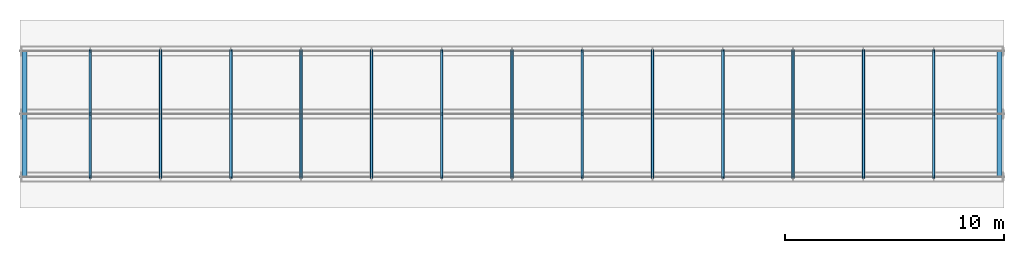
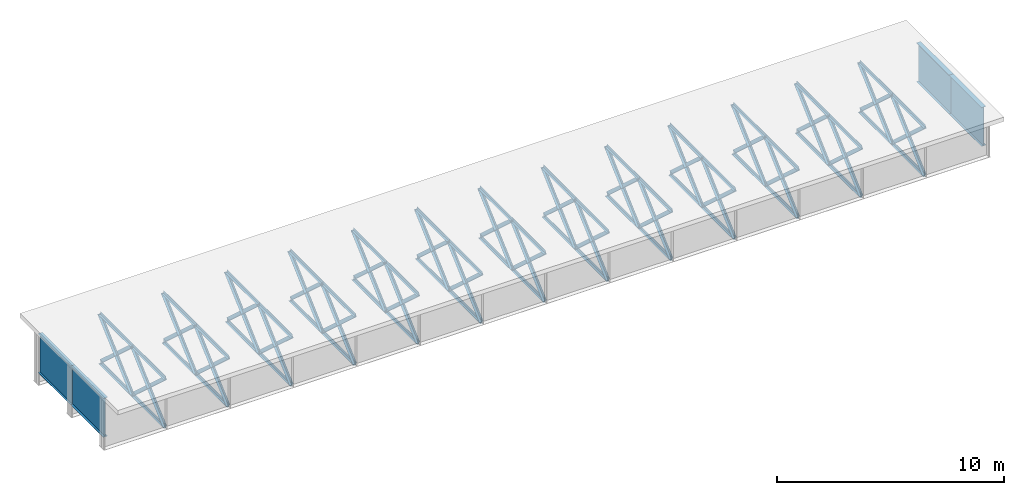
# One storey, part 1 of 12: 108 members.
"""IFC4 building model written with IfcOpenShell, lengths in metres."""

from ifc_helpers import new_model, si_unit, frame, origin, origin_with_axes, origin_2d_with_axis, place, context, subcontext, project, spatial, i_section, l_section, extrude, element, save


model = new_model("IFC4")

# Units and contexts
model_context = context("Model", 3, precision=1e-05, world=origin())
body_context = subcontext(model_context, "Body", "Model", "MODEL_VIEW")
ifc_project = project(units=[si_unit("LENGTHUNIT", "METRE"), si_unit("AREAUNIT", "SQUARE_METRE"), si_unit("VOLUMEUNIT", "CUBIC_METRE"), si_unit("PLANEANGLEUNIT", "RADIAN")], contexts=[model_context])

# Site, building, storey
site_placement = place(None, origin_with_axes())
site = spatial("IfcSite", under=ifc_project, at=site_placement, Name="Default Site")
building_placement = place(site_placement, origin_with_axes())
building = spatial("IfcBuilding", under=site, at=building_placement, Name="Bridge Structure")
storey_placement = place(building_placement, origin_with_axes())
storey = spatial("IfcBuildingStorey", under=building, at=storey_placement, Name="Superstructure")

# Members
for number, where, z_axis, x_axis, name in (
    (1, (0.2, -2.875, 0.261), (0.0, 1.0, 0.0), (-1.0, 0.0, 0.0), "End Diaphragm"),
    (2, (0.2, 0.0, 0.261), (0.0, 1.0, 0.0), (-1.0, 0.0, 0.0), "End Diaphragm"),
):
    element("IfcMember", number, at=place(storey_placement, frame(where, z_axis=z_axis, x_axis=x_axis)), inside=storey, Name=name, context=body_context, shape_type="SweptSolid", body=[
        extrude(i_section(OverallWidth=0.225, OverallDepth=2.088, WebThickness=0.022, FlangeThickness=0.012, at=origin_2d_with_axis()), origin_with_axes(), (0.0, 0.0, 1.0), 2.875),
    ])
for number, where, z_axis, x_axis, name in (
    (3, (3.2142857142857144, -2.875, 1.305), (0.0, 0.7404060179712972, -0.6721598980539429), (-1.0, 0.0, 0.0), "Diagonal Brace"),
    (4, (3.2142857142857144, -2.875, -1.305), (0.0, 0.7404060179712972, 0.6721598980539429), (-1.0, 0.0, 0.0), "Diagonal Brace"),
):
    element("IfcMember", number, at=place(storey_placement, frame(where, z_axis=z_axis, x_axis=x_axis)), inside=storey, Name=name, context=body_context, shape_type="SweptSolid", body=[
        extrude(l_section(Depth=0.195, Width=0.13, Thickness=0.008, at=origin_2d_with_axis()), origin_with_axes(), (0.0, 0.0, 1.0), 3.883004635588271),
    ])
for number, where, z_axis, x_axis, name in (
    (5, (3.2142857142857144, -2.875, -1.305), (0.0, 1.0, 0.0), (-1.0, 0.0, 0.0), "Bottom Chord"),
    (6, (3.2142857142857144, -2.875, 1.305), (0.0, 1.0, 0.0), (-1.0, 0.0, 0.0), "Top Chord"),
):
    element("IfcMember", number, at=place(storey_placement, frame(where, z_axis=z_axis, x_axis=x_axis)), inside=storey, Name=name, context=body_context, shape_type="SweptSolid", body=[
        extrude(l_section(Depth=0.169, Width=0.10400000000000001, Thickness=0.008, at=origin_2d_with_axis()), origin_with_axes(), (0.0, 0.0, 1.0), 2.875),
    ])
for number, where, z_axis, x_axis, name in (
    (7, (3.2142857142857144, 0.0, 1.305), (0.0, 0.7404060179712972, -0.6721598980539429), (-1.0, 0.0, 0.0), "Diagonal Brace"),
    (8, (3.2142857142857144, 0.0, -1.305), (0.0, 0.7404060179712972, 0.6721598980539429), (-1.0, 0.0, 0.0), "Diagonal Brace"),
):
    element("IfcMember", number, at=place(storey_placement, frame(where, z_axis=z_axis, x_axis=x_axis)), inside=storey, Name=name, context=body_context, shape_type="SweptSolid", body=[
        extrude(l_section(Depth=0.195, Width=0.13, Thickness=0.008, at=origin_2d_with_axis()), origin_with_axes(), (0.0, 0.0, 1.0), 3.883004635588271),
    ])
for number, where, z_axis, x_axis, name in (
    (9, (3.2142857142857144, 0.0, -1.305), (0.0, 1.0, 0.0), (-1.0, 0.0, 0.0), "Bottom Chord"),
    (10, (3.2142857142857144, 0.0, 1.305), (0.0, 1.0, 0.0), (-1.0, 0.0, 0.0), "Top Chord"),
):
    element("IfcMember", number, at=place(storey_placement, frame(where, z_axis=z_axis, x_axis=x_axis)), inside=storey, Name=name, context=body_context, shape_type="SweptSolid", body=[
        extrude(l_section(Depth=0.169, Width=0.10400000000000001, Thickness=0.008, at=origin_2d_with_axis()), origin_with_axes(), (0.0, 0.0, 1.0), 2.875),
    ])
for number, where, z_axis, x_axis, name in (
    (11, (6.428571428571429, -2.875, 1.305), (0.0, 0.7404060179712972, -0.6721598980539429), (-1.0, 0.0, 0.0), "Diagonal Brace"),
    (12, (6.428571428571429, -2.875, -1.305), (0.0, 0.7404060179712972, 0.6721598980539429), (-1.0, 0.0, 0.0), "Diagonal Brace"),
):
    element("IfcMember", number, at=place(storey_placement, frame(where, z_axis=z_axis, x_axis=x_axis)), inside=storey, Name=name, context=body_context, shape_type="SweptSolid", body=[
        extrude(l_section(Depth=0.195, Width=0.13, Thickness=0.008, at=origin_2d_with_axis()), origin_with_axes(), (0.0, 0.0, 1.0), 3.883004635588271),
    ])
for number, where, z_axis, x_axis, name in (
    (13, (6.428571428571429, -2.875, -1.305), (0.0, 1.0, 0.0), (-1.0, 0.0, 0.0), "Bottom Chord"),
    (14, (6.428571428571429, -2.875, 1.305), (0.0, 1.0, 0.0), (-1.0, 0.0, 0.0), "Top Chord"),
):
    element("IfcMember", number, at=place(storey_placement, frame(where, z_axis=z_axis, x_axis=x_axis)), inside=storey, Name=name, context=body_context, shape_type="SweptSolid", body=[
        extrude(l_section(Depth=0.169, Width=0.10400000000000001, Thickness=0.008, at=origin_2d_with_axis()), origin_with_axes(), (0.0, 0.0, 1.0), 2.875),
    ])
for number, where, z_axis, x_axis, name in (
    (15, (6.428571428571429, 0.0, 1.305), (0.0, 0.7404060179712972, -0.6721598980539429), (-1.0, 0.0, 0.0), "Diagonal Brace"),
    (16, (6.428571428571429, 0.0, -1.305), (0.0, 0.7404060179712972, 0.6721598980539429), (-1.0, 0.0, 0.0), "Diagonal Brace"),
):
    element("IfcMember", number, at=place(storey_placement, frame(where, z_axis=z_axis, x_axis=x_axis)), inside=storey, Name=name, context=body_context, shape_type="SweptSolid", body=[
        extrude(l_section(Depth=0.195, Width=0.13, Thickness=0.008, at=origin_2d_with_axis()), origin_with_axes(), (0.0, 0.0, 1.0), 3.883004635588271),
    ])
for number, where, z_axis, x_axis, name in (
    (17, (6.428571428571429, 0.0, -1.305), (0.0, 1.0, 0.0), (-1.0, 0.0, 0.0), "Bottom Chord"),
    (18, (6.428571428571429, 0.0, 1.305), (0.0, 1.0, 0.0), (-1.0, 0.0, 0.0), "Top Chord"),
):
    element("IfcMember", number, at=place(storey_placement, frame(where, z_axis=z_axis, x_axis=x_axis)), inside=storey, Name=name, context=body_context, shape_type="SweptSolid", body=[
        extrude(l_section(Depth=0.169, Width=0.10400000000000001, Thickness=0.008, at=origin_2d_with_axis()), origin_with_axes(), (0.0, 0.0, 1.0), 2.875),
    ])
for number, where, z_axis, x_axis, name in (
    (19, (9.642857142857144, -2.875, 1.305), (0.0, 0.7404060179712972, -0.6721598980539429), (-1.0, 0.0, 0.0), "Diagonal Brace"),
    (20, (9.642857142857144, -2.875, -1.305), (0.0, 0.7404060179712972, 0.6721598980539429), (-1.0, 0.0, 0.0), "Diagonal Brace"),
):
    element("IfcMember", number, at=place(storey_placement, frame(where, z_axis=z_axis, x_axis=x_axis)), inside=storey, Name=name, context=body_context, shape_type="SweptSolid", body=[
        extrude(l_section(Depth=0.195, Width=0.13, Thickness=0.008, at=origin_2d_with_axis()), origin_with_axes(), (0.0, 0.0, 1.0), 3.883004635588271),
    ])
for number, where, z_axis, x_axis, name in (
    (21, (9.642857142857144, -2.875, -1.305), (0.0, 1.0, 0.0), (-1.0, 0.0, 0.0), "Bottom Chord"),
    (22, (9.642857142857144, -2.875, 1.305), (0.0, 1.0, 0.0), (-1.0, 0.0, 0.0), "Top Chord"),
):
    element("IfcMember", number, at=place(storey_placement, frame(where, z_axis=z_axis, x_axis=x_axis)), inside=storey, Name=name, context=body_context, shape_type="SweptSolid", body=[
        extrude(l_section(Depth=0.169, Width=0.10400000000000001, Thickness=0.008, at=origin_2d_with_axis()), origin_with_axes(), (0.0, 0.0, 1.0), 2.875),
    ])
for number, where, z_axis, x_axis, name in (
    (23, (9.642857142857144, 0.0, 1.305), (0.0, 0.7404060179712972, -0.6721598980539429), (-1.0, 0.0, 0.0), "Diagonal Brace"),
    (24, (9.642857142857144, 0.0, -1.305), (0.0, 0.7404060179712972, 0.6721598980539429), (-1.0, 0.0, 0.0), "Diagonal Brace"),
):
    element("IfcMember", number, at=place(storey_placement, frame(where, z_axis=z_axis, x_axis=x_axis)), inside=storey, Name=name, context=body_context, shape_type="SweptSolid", body=[
        extrude(l_section(Depth=0.195, Width=0.13, Thickness=0.008, at=origin_2d_with_axis()), origin_with_axes(), (0.0, 0.0, 1.0), 3.883004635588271),
    ])
for number, where, z_axis, x_axis, name in (
    (25, (9.642857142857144, 0.0, -1.305), (0.0, 1.0, 0.0), (-1.0, 0.0, 0.0), "Bottom Chord"),
    (26, (9.642857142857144, 0.0, 1.305), (0.0, 1.0, 0.0), (-1.0, 0.0, 0.0), "Top Chord"),
):
    element("IfcMember", number, at=place(storey_placement, frame(where, z_axis=z_axis, x_axis=x_axis)), inside=storey, Name=name, context=body_context, shape_type="SweptSolid", body=[
        extrude(l_section(Depth=0.169, Width=0.10400000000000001, Thickness=0.008, at=origin_2d_with_axis()), origin_with_axes(), (0.0, 0.0, 1.0), 2.875),
    ])
for number, where, z_axis, x_axis, name in (
    (27, (12.857142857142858, -2.875, 1.305), (0.0, 0.7404060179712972, -0.6721598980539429), (-1.0, 0.0, 0.0), "Diagonal Brace"),
    (28, (12.857142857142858, -2.875, -1.305), (0.0, 0.7404060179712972, 0.6721598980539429), (-1.0, 0.0, 0.0), "Diagonal Brace"),
):
    element("IfcMember", number, at=place(storey_placement, frame(where, z_axis=z_axis, x_axis=x_axis)), inside=storey, Name=name, context=body_context, shape_type="SweptSolid", body=[
        extrude(l_section(Depth=0.195, Width=0.13, Thickness=0.008, at=origin_2d_with_axis()), origin_with_axes(), (0.0, 0.0, 1.0), 3.883004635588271),
    ])
for number, where, z_axis, x_axis, name in (
    (29, (12.857142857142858, -2.875, -1.305), (0.0, 1.0, 0.0), (-1.0, 0.0, 0.0), "Bottom Chord"),
    (30, (12.857142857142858, -2.875, 1.305), (0.0, 1.0, 0.0), (-1.0, 0.0, 0.0), "Top Chord"),
):
    element("IfcMember", number, at=place(storey_placement, frame(where, z_axis=z_axis, x_axis=x_axis)), inside=storey, Name=name, context=body_context, shape_type="SweptSolid", body=[
        extrude(l_section(Depth=0.169, Width=0.10400000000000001, Thickness=0.008, at=origin_2d_with_axis()), origin_with_axes(), (0.0, 0.0, 1.0), 2.875),
    ])
for number, where, z_axis, x_axis, name in (
    (31, (12.857142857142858, 0.0, 1.305), (0.0, 0.7404060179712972, -0.6721598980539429), (-1.0, 0.0, 0.0), "Diagonal Brace"),
    (32, (12.857142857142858, 0.0, -1.305), (0.0, 0.7404060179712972, 0.6721598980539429), (-1.0, 0.0, 0.0), "Diagonal Brace"),
):
    element("IfcMember", number, at=place(storey_placement, frame(where, z_axis=z_axis, x_axis=x_axis)), inside=storey, Name=name, context=body_context, shape_type="SweptSolid", body=[
        extrude(l_section(Depth=0.195, Width=0.13, Thickness=0.008, at=origin_2d_with_axis()), origin_with_axes(), (0.0, 0.0, 1.0), 3.883004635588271),
    ])
for number, where, z_axis, x_axis, name in (
    (33, (12.857142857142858, 0.0, -1.305), (0.0, 1.0, 0.0), (-1.0, 0.0, 0.0), "Bottom Chord"),
    (34, (12.857142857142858, 0.0, 1.305), (0.0, 1.0, 0.0), (-1.0, 0.0, 0.0), "Top Chord"),
):
    element("IfcMember", number, at=place(storey_placement, frame(where, z_axis=z_axis, x_axis=x_axis)), inside=storey, Name=name, context=body_context, shape_type="SweptSolid", body=[
        extrude(l_section(Depth=0.169, Width=0.10400000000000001, Thickness=0.008, at=origin_2d_with_axis()), origin_with_axes(), (0.0, 0.0, 1.0), 2.875),
    ])
for number, where, z_axis, x_axis, name in (
    (35, (16.07142857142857, -2.875, 1.305), (0.0, 0.7404060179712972, -0.6721598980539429), (-1.0, 0.0, 0.0), "Diagonal Brace"),
    (36, (16.07142857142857, -2.875, -1.305), (0.0, 0.7404060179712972, 0.6721598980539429), (-1.0, 0.0, 0.0), "Diagonal Brace"),
):
    element("IfcMember", number, at=place(storey_placement, frame(where, z_axis=z_axis, x_axis=x_axis)), inside=storey, Name=name, context=body_context, shape_type="SweptSolid", body=[
        extrude(l_section(Depth=0.195, Width=0.13, Thickness=0.008, at=origin_2d_with_axis()), origin_with_axes(), (0.0, 0.0, 1.0), 3.883004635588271),
    ])
for number, where, z_axis, x_axis, name in (
    (37, (16.07142857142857, -2.875, -1.305), (0.0, 1.0, 0.0), (-1.0, 0.0, 0.0), "Bottom Chord"),
    (38, (16.07142857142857, -2.875, 1.305), (0.0, 1.0, 0.0), (-1.0, 0.0, 0.0), "Top Chord"),
):
    element("IfcMember", number, at=place(storey_placement, frame(where, z_axis=z_axis, x_axis=x_axis)), inside=storey, Name=name, context=body_context, shape_type="SweptSolid", body=[
        extrude(l_section(Depth=0.169, Width=0.10400000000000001, Thickness=0.008, at=origin_2d_with_axis()), origin_with_axes(), (0.0, 0.0, 1.0), 2.875),
    ])
for number, where, z_axis, x_axis, name in (
    (39, (16.07142857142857, 0.0, 1.305), (0.0, 0.7404060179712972, -0.6721598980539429), (-1.0, 0.0, 0.0), "Diagonal Brace"),
    (40, (16.07142857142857, 0.0, -1.305), (0.0, 0.7404060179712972, 0.6721598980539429), (-1.0, 0.0, 0.0), "Diagonal Brace"),
):
    element("IfcMember", number, at=place(storey_placement, frame(where, z_axis=z_axis, x_axis=x_axis)), inside=storey, Name=name, context=body_context, shape_type="SweptSolid", body=[
        extrude(l_section(Depth=0.195, Width=0.13, Thickness=0.008, at=origin_2d_with_axis()), origin_with_axes(), (0.0, 0.0, 1.0), 3.883004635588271),
    ])
for number, where, z_axis, x_axis, name in (
    (41, (16.07142857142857, 0.0, -1.305), (0.0, 1.0, 0.0), (-1.0, 0.0, 0.0), "Bottom Chord"),
    (42, (16.07142857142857, 0.0, 1.305), (0.0, 1.0, 0.0), (-1.0, 0.0, 0.0), "Top Chord"),
):
    element("IfcMember", number, at=place(storey_placement, frame(where, z_axis=z_axis, x_axis=x_axis)), inside=storey, Name=name, context=body_context, shape_type="SweptSolid", body=[
        extrude(l_section(Depth=0.169, Width=0.10400000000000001, Thickness=0.008, at=origin_2d_with_axis()), origin_with_axes(), (0.0, 0.0, 1.0), 2.875),
    ])
for number, where, z_axis, x_axis, name in (
    (43, (19.28571428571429, -2.875, 1.305), (0.0, 0.7404060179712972, -0.6721598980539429), (-1.0, 0.0, 0.0), "Diagonal Brace"),
    (44, (19.28571428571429, -2.875, -1.305), (0.0, 0.7404060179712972, 0.6721598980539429), (-1.0, 0.0, 0.0), "Diagonal Brace"),
):
    element("IfcMember", number, at=place(storey_placement, frame(where, z_axis=z_axis, x_axis=x_axis)), inside=storey, Name=name, context=body_context, shape_type="SweptSolid", body=[
        extrude(l_section(Depth=0.195, Width=0.13, Thickness=0.008, at=origin_2d_with_axis()), origin_with_axes(), (0.0, 0.0, 1.0), 3.883004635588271),
    ])
for number, where, z_axis, x_axis, name in (
    (45, (19.28571428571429, -2.875, -1.305), (0.0, 1.0, 0.0), (-1.0, 0.0, 0.0), "Bottom Chord"),
    (46, (19.28571428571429, -2.875, 1.305), (0.0, 1.0, 0.0), (-1.0, 0.0, 0.0), "Top Chord"),
):
    element("IfcMember", number, at=place(storey_placement, frame(where, z_axis=z_axis, x_axis=x_axis)), inside=storey, Name=name, context=body_context, shape_type="SweptSolid", body=[
        extrude(l_section(Depth=0.169, Width=0.10400000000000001, Thickness=0.008, at=origin_2d_with_axis()), origin_with_axes(), (0.0, 0.0, 1.0), 2.875),
    ])
for number, where, z_axis, x_axis, name in (
    (47, (19.28571428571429, 0.0, 1.305), (0.0, 0.7404060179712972, -0.6721598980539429), (-1.0, 0.0, 0.0), "Diagonal Brace"),
    (48, (19.28571428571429, 0.0, -1.305), (0.0, 0.7404060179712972, 0.6721598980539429), (-1.0, 0.0, 0.0), "Diagonal Brace"),
):
    element("IfcMember", number, at=place(storey_placement, frame(where, z_axis=z_axis, x_axis=x_axis)), inside=storey, Name=name, context=body_context, shape_type="SweptSolid", body=[
        extrude(l_section(Depth=0.195, Width=0.13, Thickness=0.008, at=origin_2d_with_axis()), origin_with_axes(), (0.0, 0.0, 1.0), 3.883004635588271),
    ])
for number, where, z_axis, x_axis, name in (
    (49, (19.28571428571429, 0.0, -1.305), (0.0, 1.0, 0.0), (-1.0, 0.0, 0.0), "Bottom Chord"),
    (50, (19.28571428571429, 0.0, 1.305), (0.0, 1.0, 0.0), (-1.0, 0.0, 0.0), "Top Chord"),
):
    element("IfcMember", number, at=place(storey_placement, frame(where, z_axis=z_axis, x_axis=x_axis)), inside=storey, Name=name, context=body_context, shape_type="SweptSolid", body=[
        extrude(l_section(Depth=0.169, Width=0.10400000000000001, Thickness=0.008, at=origin_2d_with_axis()), origin_with_axes(), (0.0, 0.0, 1.0), 2.875),
    ])
for number, where, z_axis, x_axis, name in (
    (51, (22.5, -2.875, 1.305), (0.0, 0.7404060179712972, -0.6721598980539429), (-1.0, 0.0, 0.0), "Diagonal Brace"),
    (52, (22.5, -2.875, -1.305), (0.0, 0.7404060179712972, 0.6721598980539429), (-1.0, 0.0, 0.0), "Diagonal Brace"),
):
    element("IfcMember", number, at=place(storey_placement, frame(where, z_axis=z_axis, x_axis=x_axis)), inside=storey, Name=name, context=body_context, shape_type="SweptSolid", body=[
        extrude(l_section(Depth=0.195, Width=0.13, Thickness=0.008, at=origin_2d_with_axis()), origin_with_axes(), (0.0, 0.0, 1.0), 3.883004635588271),
    ])
for number, where, z_axis, x_axis, name in (
    (53, (22.5, -2.875, -1.305), (0.0, 1.0, 0.0), (-1.0, 0.0, 0.0), "Bottom Chord"),
    (54, (22.5, -2.875, 1.305), (0.0, 1.0, 0.0), (-1.0, 0.0, 0.0), "Top Chord"),
):
    element("IfcMember", number, at=place(storey_placement, frame(where, z_axis=z_axis, x_axis=x_axis)), inside=storey, Name=name, context=body_context, shape_type="SweptSolid", body=[
        extrude(l_section(Depth=0.169, Width=0.10400000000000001, Thickness=0.008, at=origin_2d_with_axis()), origin_with_axes(), (0.0, 0.0, 1.0), 2.875),
    ])
for number, where, z_axis, x_axis, name in (
    (55, (22.5, 0.0, 1.305), (0.0, 0.7404060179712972, -0.6721598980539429), (-1.0, 0.0, 0.0), "Diagonal Brace"),
    (56, (22.5, 0.0, -1.305), (0.0, 0.7404060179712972, 0.6721598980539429), (-1.0, 0.0, 0.0), "Diagonal Brace"),
):
    element("IfcMember", number, at=place(storey_placement, frame(where, z_axis=z_axis, x_axis=x_axis)), inside=storey, Name=name, context=body_context, shape_type="SweptSolid", body=[
        extrude(l_section(Depth=0.195, Width=0.13, Thickness=0.008, at=origin_2d_with_axis()), origin_with_axes(), (0.0, 0.0, 1.0), 3.883004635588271),
    ])
for number, where, z_axis, x_axis, name in (
    (57, (22.5, 0.0, -1.305), (0.0, 1.0, 0.0), (-1.0, 0.0, 0.0), "Bottom Chord"),
    (58, (22.5, 0.0, 1.305), (0.0, 1.0, 0.0), (-1.0, 0.0, 0.0), "Top Chord"),
):
    element("IfcMember", number, at=place(storey_placement, frame(where, z_axis=z_axis, x_axis=x_axis)), inside=storey, Name=name, context=body_context, shape_type="SweptSolid", body=[
        extrude(l_section(Depth=0.169, Width=0.10400000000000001, Thickness=0.008, at=origin_2d_with_axis()), origin_with_axes(), (0.0, 0.0, 1.0), 2.875),
    ])
for number, where, z_axis, x_axis, name in (
    (59, (25.714285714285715, -2.875, 1.305), (0.0, 0.7404060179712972, -0.6721598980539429), (-1.0, 0.0, 0.0), "Diagonal Brace"),
    (60, (25.714285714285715, -2.875, -1.305), (0.0, 0.7404060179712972, 0.6721598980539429), (-1.0, 0.0, 0.0), "Diagonal Brace"),
):
    element("IfcMember", number, at=place(storey_placement, frame(where, z_axis=z_axis, x_axis=x_axis)), inside=storey, Name=name, context=body_context, shape_type="SweptSolid", body=[
        extrude(l_section(Depth=0.195, Width=0.13, Thickness=0.008, at=origin_2d_with_axis()), origin_with_axes(), (0.0, 0.0, 1.0), 3.883004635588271),
    ])
for number, where, z_axis, x_axis, name in (
    (61, (25.714285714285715, -2.875, -1.305), (0.0, 1.0, 0.0), (-1.0, 0.0, 0.0), "Bottom Chord"),
    (62, (25.714285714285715, -2.875, 1.305), (0.0, 1.0, 0.0), (-1.0, 0.0, 0.0), "Top Chord"),
):
    element("IfcMember", number, at=place(storey_placement, frame(where, z_axis=z_axis, x_axis=x_axis)), inside=storey, Name=name, context=body_context, shape_type="SweptSolid", body=[
        extrude(l_section(Depth=0.169, Width=0.10400000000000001, Thickness=0.008, at=origin_2d_with_axis()), origin_with_axes(), (0.0, 0.0, 1.0), 2.875),
    ])
for number, where, z_axis, x_axis, name in (
    (63, (25.714285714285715, 0.0, 1.305), (0.0, 0.7404060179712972, -0.6721598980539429), (-1.0, 0.0, 0.0), "Diagonal Brace"),
    (64, (25.714285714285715, 0.0, -1.305), (0.0, 0.7404060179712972, 0.6721598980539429), (-1.0, 0.0, 0.0), "Diagonal Brace"),
):
    element("IfcMember", number, at=place(storey_placement, frame(where, z_axis=z_axis, x_axis=x_axis)), inside=storey, Name=name, context=body_context, shape_type="SweptSolid", body=[
        extrude(l_section(Depth=0.195, Width=0.13, Thickness=0.008, at=origin_2d_with_axis()), origin_with_axes(), (0.0, 0.0, 1.0), 3.883004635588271),
    ])
for number, where, z_axis, x_axis, name in (
    (65, (25.714285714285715, 0.0, -1.305), (0.0, 1.0, 0.0), (-1.0, 0.0, 0.0), "Bottom Chord"),
    (66, (25.714285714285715, 0.0, 1.305), (0.0, 1.0, 0.0), (-1.0, 0.0, 0.0), "Top Chord"),
):
    element("IfcMember", number, at=place(storey_placement, frame(where, z_axis=z_axis, x_axis=x_axis)), inside=storey, Name=name, context=body_context, shape_type="SweptSolid", body=[
        extrude(l_section(Depth=0.169, Width=0.10400000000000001, Thickness=0.008, at=origin_2d_with_axis()), origin_with_axes(), (0.0, 0.0, 1.0), 2.875),
    ])
for number, where, z_axis, x_axis, name in (
    (67, (28.928571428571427, -2.875, 1.305), (0.0, 0.7404060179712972, -0.6721598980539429), (-1.0, 0.0, 0.0), "Diagonal Brace"),
    (68, (28.928571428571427, -2.875, -1.305), (0.0, 0.7404060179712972, 0.6721598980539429), (-1.0, 0.0, 0.0), "Diagonal Brace"),
):
    element("IfcMember", number, at=place(storey_placement, frame(where, z_axis=z_axis, x_axis=x_axis)), inside=storey, Name=name, context=body_context, shape_type="SweptSolid", body=[
        extrude(l_section(Depth=0.195, Width=0.13, Thickness=0.008, at=origin_2d_with_axis()), origin_with_axes(), (0.0, 0.0, 1.0), 3.883004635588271),
    ])
for number, where, z_axis, x_axis, name in (
    (69, (28.928571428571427, -2.875, -1.305), (0.0, 1.0, 0.0), (-1.0, 0.0, 0.0), "Bottom Chord"),
    (70, (28.928571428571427, -2.875, 1.305), (0.0, 1.0, 0.0), (-1.0, 0.0, 0.0), "Top Chord"),
):
    element("IfcMember", number, at=place(storey_placement, frame(where, z_axis=z_axis, x_axis=x_axis)), inside=storey, Name=name, context=body_context, shape_type="SweptSolid", body=[
        extrude(l_section(Depth=0.169, Width=0.10400000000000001, Thickness=0.008, at=origin_2d_with_axis()), origin_with_axes(), (0.0, 0.0, 1.0), 2.875),
    ])
for number, where, z_axis, x_axis, name in (
    (71, (28.928571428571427, 0.0, 1.305), (0.0, 0.7404060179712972, -0.6721598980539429), (-1.0, 0.0, 0.0), "Diagonal Brace"),
    (72, (28.928571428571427, 0.0, -1.305), (0.0, 0.7404060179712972, 0.6721598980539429), (-1.0, 0.0, 0.0), "Diagonal Brace"),
):
    element("IfcMember", number, at=place(storey_placement, frame(where, z_axis=z_axis, x_axis=x_axis)), inside=storey, Name=name, context=body_context, shape_type="SweptSolid", body=[
        extrude(l_section(Depth=0.195, Width=0.13, Thickness=0.008, at=origin_2d_with_axis()), origin_with_axes(), (0.0, 0.0, 1.0), 3.883004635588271),
    ])
for number, where, z_axis, x_axis, name in (
    (73, (28.928571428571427, 0.0, -1.305), (0.0, 1.0, 0.0), (-1.0, 0.0, 0.0), "Bottom Chord"),
    (74, (28.928571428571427, 0.0, 1.305), (0.0, 1.0, 0.0), (-1.0, 0.0, 0.0), "Top Chord"),
):
    element("IfcMember", number, at=place(storey_placement, frame(where, z_axis=z_axis, x_axis=x_axis)), inside=storey, Name=name, context=body_context, shape_type="SweptSolid", body=[
        extrude(l_section(Depth=0.169, Width=0.10400000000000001, Thickness=0.008, at=origin_2d_with_axis()), origin_with_axes(), (0.0, 0.0, 1.0), 2.875),
    ])
for number, where, z_axis, x_axis, name in (
    (75, (32.14285714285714, -2.875, 1.305), (0.0, 0.7404060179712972, -0.6721598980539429), (-1.0, 0.0, 0.0), "Diagonal Brace"),
    (76, (32.14285714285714, -2.875, -1.305), (0.0, 0.7404060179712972, 0.6721598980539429), (-1.0, 0.0, 0.0), "Diagonal Brace"),
):
    element("IfcMember", number, at=place(storey_placement, frame(where, z_axis=z_axis, x_axis=x_axis)), inside=storey, Name=name, context=body_context, shape_type="SweptSolid", body=[
        extrude(l_section(Depth=0.195, Width=0.13, Thickness=0.008, at=origin_2d_with_axis()), origin_with_axes(), (0.0, 0.0, 1.0), 3.883004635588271),
    ])
for number, where, z_axis, x_axis, name in (
    (77, (32.14285714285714, -2.875, -1.305), (0.0, 1.0, 0.0), (-1.0, 0.0, 0.0), "Bottom Chord"),
    (78, (32.14285714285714, -2.875, 1.305), (0.0, 1.0, 0.0), (-1.0, 0.0, 0.0), "Top Chord"),
):
    element("IfcMember", number, at=place(storey_placement, frame(where, z_axis=z_axis, x_axis=x_axis)), inside=storey, Name=name, context=body_context, shape_type="SweptSolid", body=[
        extrude(l_section(Depth=0.169, Width=0.10400000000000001, Thickness=0.008, at=origin_2d_with_axis()), origin_with_axes(), (0.0, 0.0, 1.0), 2.875),
    ])
for number, where, z_axis, x_axis, name in (
    (79, (32.14285714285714, 0.0, 1.305), (0.0, 0.7404060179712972, -0.6721598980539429), (-1.0, 0.0, 0.0), "Diagonal Brace"),
    (80, (32.14285714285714, 0.0, -1.305), (0.0, 0.7404060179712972, 0.6721598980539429), (-1.0, 0.0, 0.0), "Diagonal Brace"),
):
    element("IfcMember", number, at=place(storey_placement, frame(where, z_axis=z_axis, x_axis=x_axis)), inside=storey, Name=name, context=body_context, shape_type="SweptSolid", body=[
        extrude(l_section(Depth=0.195, Width=0.13, Thickness=0.008, at=origin_2d_with_axis()), origin_with_axes(), (0.0, 0.0, 1.0), 3.883004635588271),
    ])
for number, where, z_axis, x_axis, name in (
    (81, (32.14285714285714, 0.0, -1.305), (0.0, 1.0, 0.0), (-1.0, 0.0, 0.0), "Bottom Chord"),
    (82, (32.14285714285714, 0.0, 1.305), (0.0, 1.0, 0.0), (-1.0, 0.0, 0.0), "Top Chord"),
):
    element("IfcMember", number, at=place(storey_placement, frame(where, z_axis=z_axis, x_axis=x_axis)), inside=storey, Name=name, context=body_context, shape_type="SweptSolid", body=[
        extrude(l_section(Depth=0.169, Width=0.10400000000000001, Thickness=0.008, at=origin_2d_with_axis()), origin_with_axes(), (0.0, 0.0, 1.0), 2.875),
    ])
for number, where, z_axis, x_axis, name in (
    (83, (35.357142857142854, -2.875, 1.305), (0.0, 0.7404060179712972, -0.6721598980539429), (-1.0, 0.0, 0.0), "Diagonal Brace"),
    (84, (35.357142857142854, -2.875, -1.305), (0.0, 0.7404060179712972, 0.6721598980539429), (-1.0, 0.0, 0.0), "Diagonal Brace"),
):
    element("IfcMember", number, at=place(storey_placement, frame(where, z_axis=z_axis, x_axis=x_axis)), inside=storey, Name=name, context=body_context, shape_type="SweptSolid", body=[
        extrude(l_section(Depth=0.195, Width=0.13, Thickness=0.008, at=origin_2d_with_axis()), origin_with_axes(), (0.0, 0.0, 1.0), 3.883004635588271),
    ])
for number, where, z_axis, x_axis, name in (
    (85, (35.357142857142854, -2.875, -1.305), (0.0, 1.0, 0.0), (-1.0, 0.0, 0.0), "Bottom Chord"),
    (86, (35.357142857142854, -2.875, 1.305), (0.0, 1.0, 0.0), (-1.0, 0.0, 0.0), "Top Chord"),
):
    element("IfcMember", number, at=place(storey_placement, frame(where, z_axis=z_axis, x_axis=x_axis)), inside=storey, Name=name, context=body_context, shape_type="SweptSolid", body=[
        extrude(l_section(Depth=0.169, Width=0.10400000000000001, Thickness=0.008, at=origin_2d_with_axis()), origin_with_axes(), (0.0, 0.0, 1.0), 2.875),
    ])
for number, where, z_axis, x_axis, name in (
    (87, (35.357142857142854, 0.0, 1.305), (0.0, 0.7404060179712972, -0.6721598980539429), (-1.0, 0.0, 0.0), "Diagonal Brace"),
    (88, (35.357142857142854, 0.0, -1.305), (0.0, 0.7404060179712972, 0.6721598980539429), (-1.0, 0.0, 0.0), "Diagonal Brace"),
):
    element("IfcMember", number, at=place(storey_placement, frame(where, z_axis=z_axis, x_axis=x_axis)), inside=storey, Name=name, context=body_context, shape_type="SweptSolid", body=[
        extrude(l_section(Depth=0.195, Width=0.13, Thickness=0.008, at=origin_2d_with_axis()), origin_with_axes(), (0.0, 0.0, 1.0), 3.883004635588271),
    ])
for number, where, z_axis, x_axis, name in (
    (89, (35.357142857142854, 0.0, -1.305), (0.0, 1.0, 0.0), (-1.0, 0.0, 0.0), "Bottom Chord"),
    (90, (35.357142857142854, 0.0, 1.305), (0.0, 1.0, 0.0), (-1.0, 0.0, 0.0), "Top Chord"),
):
    element("IfcMember", number, at=place(storey_placement, frame(where, z_axis=z_axis, x_axis=x_axis)), inside=storey, Name=name, context=body_context, shape_type="SweptSolid", body=[
        extrude(l_section(Depth=0.169, Width=0.10400000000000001, Thickness=0.008, at=origin_2d_with_axis()), origin_with_axes(), (0.0, 0.0, 1.0), 2.875),
    ])
for number, where, z_axis, x_axis, name in (
    (91, (38.57142857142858, -2.875, 1.305), (0.0, 0.7404060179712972, -0.6721598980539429), (-1.0, 0.0, 0.0), "Diagonal Brace"),
    (92, (38.57142857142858, -2.875, -1.305), (0.0, 0.7404060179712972, 0.6721598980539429), (-1.0, 0.0, 0.0), "Diagonal Brace"),
):
    element("IfcMember", number, at=place(storey_placement, frame(where, z_axis=z_axis, x_axis=x_axis)), inside=storey, Name=name, context=body_context, shape_type="SweptSolid", body=[
        extrude(l_section(Depth=0.195, Width=0.13, Thickness=0.008, at=origin_2d_with_axis()), origin_with_axes(), (0.0, 0.0, 1.0), 3.883004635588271),
    ])
for number, where, z_axis, x_axis, name in (
    (93, (38.57142857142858, -2.875, -1.305), (0.0, 1.0, 0.0), (-1.0, 0.0, 0.0), "Bottom Chord"),
    (94, (38.57142857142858, -2.875, 1.305), (0.0, 1.0, 0.0), (-1.0, 0.0, 0.0), "Top Chord"),
):
    element("IfcMember", number, at=place(storey_placement, frame(where, z_axis=z_axis, x_axis=x_axis)), inside=storey, Name=name, context=body_context, shape_type="SweptSolid", body=[
        extrude(l_section(Depth=0.169, Width=0.10400000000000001, Thickness=0.008, at=origin_2d_with_axis()), origin_with_axes(), (0.0, 0.0, 1.0), 2.875),
    ])
for number, where, z_axis, x_axis, name in (
    (95, (38.57142857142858, 0.0, 1.305), (0.0, 0.7404060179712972, -0.6721598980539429), (-1.0, 0.0, 0.0), "Diagonal Brace"),
    (96, (38.57142857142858, 0.0, -1.305), (0.0, 0.7404060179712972, 0.6721598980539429), (-1.0, 0.0, 0.0), "Diagonal Brace"),
):
    element("IfcMember", number, at=place(storey_placement, frame(where, z_axis=z_axis, x_axis=x_axis)), inside=storey, Name=name, context=body_context, shape_type="SweptSolid", body=[
        extrude(l_section(Depth=0.195, Width=0.13, Thickness=0.008, at=origin_2d_with_axis()), origin_with_axes(), (0.0, 0.0, 1.0), 3.883004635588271),
    ])
for number, where, z_axis, x_axis, name in (
    (97, (38.57142857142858, 0.0, -1.305), (0.0, 1.0, 0.0), (-1.0, 0.0, 0.0), "Bottom Chord"),
    (98, (38.57142857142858, 0.0, 1.305), (0.0, 1.0, 0.0), (-1.0, 0.0, 0.0), "Top Chord"),
):
    element("IfcMember", number, at=place(storey_placement, frame(where, z_axis=z_axis, x_axis=x_axis)), inside=storey, Name=name, context=body_context, shape_type="SweptSolid", body=[
        extrude(l_section(Depth=0.169, Width=0.10400000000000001, Thickness=0.008, at=origin_2d_with_axis()), origin_with_axes(), (0.0, 0.0, 1.0), 2.875),
    ])
for number, where, z_axis, x_axis, name in (
    (99, (41.785714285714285, -2.875, 1.305), (0.0, 0.7404060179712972, -0.6721598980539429), (-1.0, 0.0, 0.0), "Diagonal Brace"),
    (100, (41.785714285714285, -2.875, -1.305), (0.0, 0.7404060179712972, 0.6721598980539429), (-1.0, 0.0, 0.0), "Diagonal Brace"),
):
    element("IfcMember", number, at=place(storey_placement, frame(where, z_axis=z_axis, x_axis=x_axis)), inside=storey, Name=name, context=body_context, shape_type="SweptSolid", body=[
        extrude(l_section(Depth=0.195, Width=0.13, Thickness=0.008, at=origin_2d_with_axis()), origin_with_axes(), (0.0, 0.0, 1.0), 3.883004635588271),
    ])
for number, where, z_axis, x_axis, name in (
    (101, (41.785714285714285, -2.875, -1.305), (0.0, 1.0, 0.0), (-1.0, 0.0, 0.0), "Bottom Chord"),
    (102, (41.785714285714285, -2.875, 1.305), (0.0, 1.0, 0.0), (-1.0, 0.0, 0.0), "Top Chord"),
):
    element("IfcMember", number, at=place(storey_placement, frame(where, z_axis=z_axis, x_axis=x_axis)), inside=storey, Name=name, context=body_context, shape_type="SweptSolid", body=[
        extrude(l_section(Depth=0.169, Width=0.10400000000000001, Thickness=0.008, at=origin_2d_with_axis()), origin_with_axes(), (0.0, 0.0, 1.0), 2.875),
    ])
for number, where, z_axis, x_axis, name in (
    (103, (41.785714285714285, 0.0, 1.305), (0.0, 0.7404060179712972, -0.6721598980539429), (-1.0, 0.0, 0.0), "Diagonal Brace"),
    (104, (41.785714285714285, 0.0, -1.305), (0.0, 0.7404060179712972, 0.6721598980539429), (-1.0, 0.0, 0.0), "Diagonal Brace"),
):
    element("IfcMember", number, at=place(storey_placement, frame(where, z_axis=z_axis, x_axis=x_axis)), inside=storey, Name=name, context=body_context, shape_type="SweptSolid", body=[
        extrude(l_section(Depth=0.195, Width=0.13, Thickness=0.008, at=origin_2d_with_axis()), origin_with_axes(), (0.0, 0.0, 1.0), 3.883004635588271),
    ])
for number, where, z_axis, x_axis, name in (
    (105, (41.785714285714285, 0.0, -1.305), (0.0, 1.0, 0.0), (-1.0, 0.0, 0.0), "Bottom Chord"),
    (106, (41.785714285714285, 0.0, 1.305), (0.0, 1.0, 0.0), (-1.0, 0.0, 0.0), "Top Chord"),
):
    element("IfcMember", number, at=place(storey_placement, frame(where, z_axis=z_axis, x_axis=x_axis)), inside=storey, Name=name, context=body_context, shape_type="SweptSolid", body=[
        extrude(l_section(Depth=0.169, Width=0.10400000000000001, Thickness=0.008, at=origin_2d_with_axis()), origin_with_axes(), (0.0, 0.0, 1.0), 2.875),
    ])
for number, where, z_axis, x_axis, name in (
    (107, (44.800000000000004, -2.875, 0.261), (0.0, 1.0, 0.0), (-1.0, 0.0, 0.0), "End Diaphragm"),
    (108, (44.800000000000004, 0.0, 0.261), (0.0, 1.0, 0.0), (-1.0, 0.0, 0.0), "End Diaphragm"),
):
    element("IfcMember", number, at=place(storey_placement, frame(where, z_axis=z_axis, x_axis=x_axis)), inside=storey, Name=name, context=body_context, shape_type="SweptSolid", body=[
        extrude(i_section(OverallWidth=0.225, OverallDepth=2.088, WebThickness=0.022, FlangeThickness=0.012, at=origin_2d_with_axis()), origin_with_axes(), (0.0, 0.0, 1.0), 2.875),
    ])

save(model, "model.ifc")
